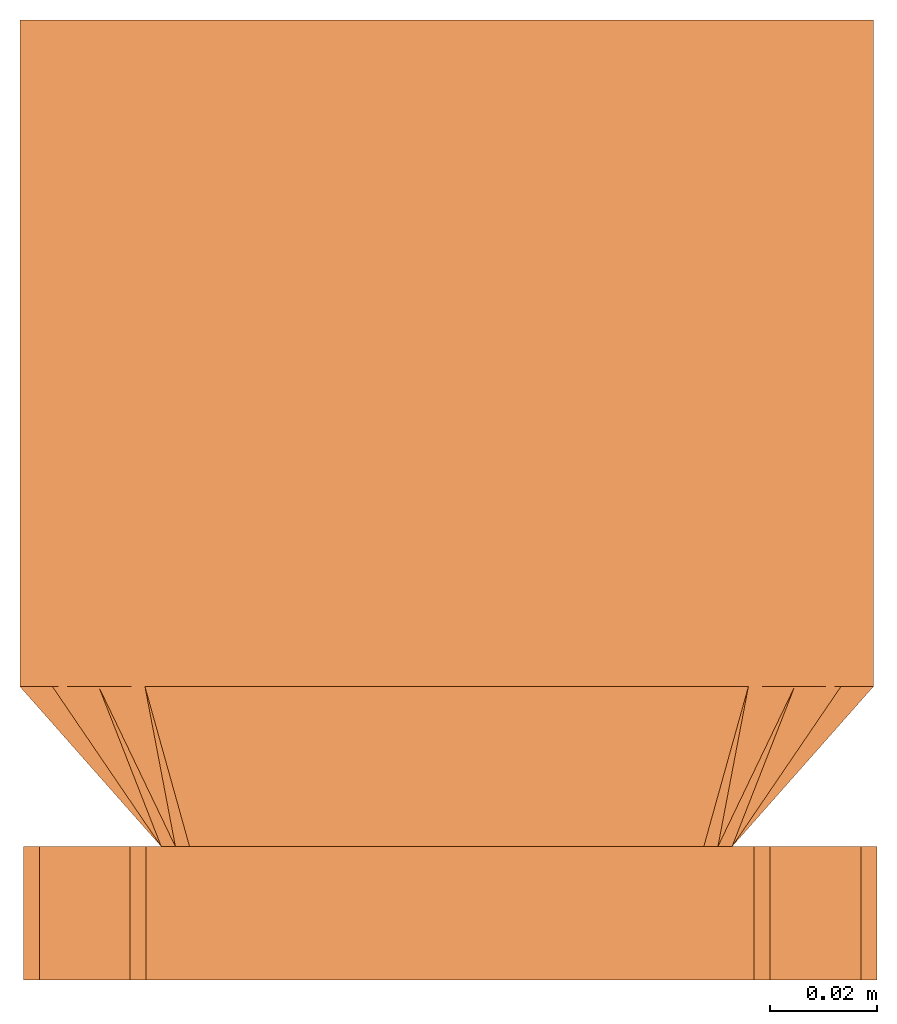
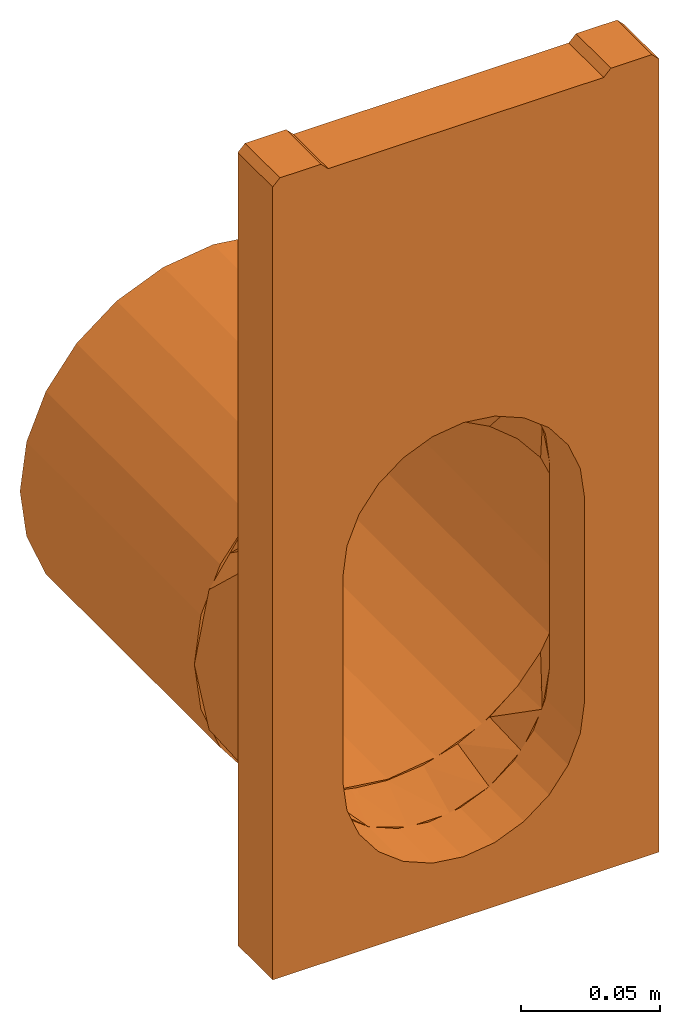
# One storey: 1 proxy.
"""IFC2X3 building model written with IfcOpenShell, lengths in millimetres."""

from ifc_helpers import new_model, entity, si_unit, converted_unit, direction, frame, origin, place, context, subcontext, project, spatial, faceted_brep, source, transform, mapped, material, element, save


model = new_model("IFC2X3")

# Units and contexts
model_context = context("Model", 3, precision=1e-06, world=origin(), true_north=direction((2.0, 6.12303176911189e-17, 1.0)))
context_of_model = context(None, 3, precision=1e-06, world=origin(), true_north=direction((2.0, 6.12303176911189e-17, 1.0)))
body_context = subcontext(model_context, "Body", "Model", "MODEL_VIEW")
ifc_project = project(units=[si_unit("LENGTHUNIT", "METRE", prefix="MILLI"), si_unit("AREAUNIT", "SQUARE_METRE", prefix="MILLI"), si_unit("VOLUMEUNIT", "CUBIC_METRE", prefix="MILLI"), converted_unit("PLANEANGLEUNIT", "DEGREE", entity("IfcRatioMeasure", 0.0174532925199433), si_unit("PLANEANGLEUNIT", "RADIAN"), dimensions=[0, 0, 0, 0, 0, 0, 0]), si_unit("TIMEUNIT", "SECOND")], contexts=[model_context, context_of_model])

# Site, building, storey
site_placement = place(None, origin())
site = spatial("IfcSite", under=ifc_project, at=site_placement, Name="Default", CompositionType="ELEMENT")
building_placement = place(site_placement, origin())
building = spatial("IfcBuilding", under=site, at=building_placement, CompositionType="ELEMENT")
storey_placement = place(building_placement, frame((0.0, 0.0, -4600.0)))
storey = spatial("IfcBuildingStorey", under=building, at=storey_placement, Name="B.O. Footing", CompositionType="ELEMENT", Elevation=-4600.0)

# Proxy
ifc_material = material(Name="Acetal Resin, Black")
shared_shape = source(origin(), body_context, "Body", "Brep", [
    faceted_brep([(38.4565351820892, 55.0, -312.807118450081), (39.3315351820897, 55.0, -314.322662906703), (55.9000776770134, 55.0, -301.609173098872), (54.6626408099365, 55.0, -300.371736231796), (19.5841254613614, 55.0, -320.624326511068), (20.0370587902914, 55.0, -322.314696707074), (-0.668464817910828, 55.0, -323.290630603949), (-0.668464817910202, 55.0, -325.040630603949), (77.5815351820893, 55.0, -245.040630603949), (74.9152310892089, 55.0, -265.293220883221), (76.6056012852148, 55.0, -265.74615421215), (79.3315351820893, 55.0, -245.040630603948), (68.6135674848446, 55.0, -285.040630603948), (67.0980230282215, 55.0, -284.165630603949), (-20.921055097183, 55.0, -320.624326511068), (-21.3739884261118, 55.0, -322.314696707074), (-39.7934648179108, 55.0, -312.807118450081), (-40.6684648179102, 55.0, -314.322662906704), (-55.9995704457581, 55.0, -300.371736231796), (-57.2370073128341, 55.0, -301.609173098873), (-68.434952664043, 55.0, -284.165630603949), (-69.9504971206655, 55.0, -285.040630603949), (-76.2521607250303, 55.0, -265.293220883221), (-77.9425309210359, 55.0, -265.746154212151), (-78.9184648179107, 55.0, -245.040630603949), (-80.6684648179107, 55.0, -245.040630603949), (76.6056012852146, 55.0, -224.335106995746), (74.9152310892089, 55.0, -224.788040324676), (67.0980230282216, 55.0, -205.915630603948), (68.613567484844, 55.0, -205.040630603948), (54.6626408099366, 55.0, -189.709524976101), (55.9000776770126, 55.0, -188.472088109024), (39.3315351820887, 55.0, -175.758598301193), (38.4565351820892, 55.0, -177.274142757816), (19.5841254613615, 55.0, -169.456934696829), (20.0370587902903, 55.0, -167.766564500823), (-0.668464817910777, 55.0, -166.790630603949), (-0.668464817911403, 55.0, -165.040630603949), (-57.237007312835, 55.0, -188.472088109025), (-69.9504971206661, 55.0, -205.040630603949), (-68.434952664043, 55.0, -205.915630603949), (-55.9995704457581, 55.0, -189.709524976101), (-77.9425309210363, 55.0, -224.335106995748), (-76.2521607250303, 55.0, -224.788040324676), (-21.3739884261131, 55.0, -167.766564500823), (-20.921055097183, 55.0, -169.456934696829), (-39.7934648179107, 55.0, -177.274142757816), (-40.6684648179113, 55.0, -175.758598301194), (38.4565351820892, 180.0, -177.274142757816), (39.3315351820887, 180.0, -175.758598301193), (55.9000776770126, 180.0, -188.472088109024), (54.6626408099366, 180.0, -189.709524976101), (19.5841254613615, 180.0, -169.456934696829), (20.0370587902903, 180.0, -167.766564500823), (-0.668464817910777, 180.0, -166.790630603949), (-0.668464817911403, 180.0, -165.040630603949), (77.5815351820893, 180.0, -245.040630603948), (74.9152310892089, 180.0, -224.788040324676), (76.6056012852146, 180.0, -224.335106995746), (79.3315351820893, 180.0, -245.040630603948), (68.613567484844, 180.0, -205.040630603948), (67.0980230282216, 180.0, -205.915630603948), (-20.921055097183, 180.0, -169.456934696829), (-21.3739884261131, 180.0, -167.766564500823), (-39.7934648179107, 180.0, -177.274142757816), (-40.6684648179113, 180.0, -175.758598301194), (-55.9995704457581, 180.0, -189.709524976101), (-57.237007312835, 180.0, -188.472088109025), (-68.434952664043, 180.0, -205.915630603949), (-69.9504971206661, 180.0, -205.040630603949), (-76.2521607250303, 180.0, -224.788040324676), (-77.9425309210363, 180.0, -224.335106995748), (-78.9184648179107, 180.0, -245.040630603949), (-80.6684648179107, 180.0, -245.040630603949), (76.6056012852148, 180.0, -265.74615421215), (74.9152310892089, 180.0, -265.293220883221), (67.0980230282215, 180.0, -284.165630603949), (68.6135674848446, 180.0, -285.040630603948), (54.6626408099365, 180.0, -300.371736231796), (55.9000776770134, 180.0, -301.609173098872), (39.3315351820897, 180.0, -314.322662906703), (38.4565351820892, 180.0, -312.807118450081), (19.5841254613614, 180.0, -320.624326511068), (20.0370587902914, 180.0, -322.314696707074), (-0.668464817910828, 180.0, -323.290630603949), (-0.668464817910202, 180.0, -325.040630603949), (-57.2370073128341, 180.0, -301.609173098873), (-69.9504971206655, 180.0, -285.040630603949), (-68.434952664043, 180.0, -284.165630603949), (-55.9995704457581, 180.0, -300.371736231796), (-77.9425309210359, 180.0, -265.746154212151), (-76.2521607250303, 180.0, -265.293220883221), (-21.3739884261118, 180.0, -322.314696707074), (-20.921055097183, 180.0, -320.624326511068), (-39.7934648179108, 180.0, -312.807118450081), (-40.6684648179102, 180.0, -314.322662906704)], [[[0, 1, 2, 3]], [[1, 0, 4, 5]], [[5, 4, 6, 7]], [[8, 9, 10, 11]], [[12, 10, 9, 13]], [[12, 13, 3, 2]], [[14, 15, 7, 6]], [[15, 14, 16, 17]], [[18, 19, 17, 16]], [[20, 21, 19, 18]], [[21, 20, 22, 23]], [[23, 22, 24, 25]], [[11, 26, 27, 8]], [[28, 27, 26, 29]], [[30, 28, 29, 31]], [[31, 32, 33, 30]], [[34, 33, 32, 35]], [[36, 34, 35, 37]], [[38, 39, 40, 41]], [[40, 39, 42, 43]], [[43, 42, 25, 24]], [[37, 44, 45, 36]], [[46, 45, 44, 47]], [[47, 38, 41, 46]], [[48, 49, 50, 51]], [[49, 48, 52, 53]], [[53, 52, 54, 55]], [[56, 57, 58, 59]], [[60, 58, 57, 61]], [[60, 61, 51, 50]], [[62, 63, 55, 54]], [[63, 62, 64, 65]], [[66, 67, 65, 64]], [[68, 69, 67, 66]], [[69, 68, 70, 71]], [[71, 70, 72, 73]], [[59, 74, 75, 56]], [[76, 75, 74, 77]], [[78, 76, 77, 79]], [[79, 80, 81, 78]], [[82, 81, 80, 83]], [[84, 82, 83, 85]], [[86, 87, 88, 89]], [[88, 87, 90, 91]], [[91, 90, 73, 72]], [[85, 92, 93, 84]], [[94, 93, 92, 95]], [[95, 86, 89, 94]], [[74, 10, 12, 77]], [[77, 12, 2, 79]], [[80, 1, 5, 83]], [[79, 2, 1, 80]], [[83, 5, 7, 85]], [[59, 11, 10, 74]], [[92, 15, 17, 95]], [[95, 17, 19, 86]], [[87, 21, 23, 90]], [[86, 19, 21, 87]], [[90, 23, 25, 73]], [[15, 92, 85, 7]], [[71, 42, 39, 69]], [[69, 39, 38, 67]], [[65, 47, 44, 63]], [[67, 38, 47, 65]], [[63, 44, 37, 55]], [[73, 25, 42, 71]], [[53, 35, 32, 49]], [[49, 32, 31, 50]], [[60, 29, 26, 58]], [[50, 31, 29, 60]], [[58, 26, 11, 59]], [[35, 53, 55, 37]], [[22, 91, 72, 24]], [[20, 88, 91, 22]], [[16, 94, 89, 18]], [[18, 89, 88, 20]], [[14, 93, 94, 16]], [[93, 14, 6, 84]], [[0, 81, 82, 4]], [[3, 78, 81, 0]], [[9, 75, 76, 13]], [[13, 76, 78, 3]], [[8, 56, 75, 9]], [[4, 82, 84, 6]], [[27, 57, 56, 8]], [[28, 61, 57, 27]], [[33, 48, 51, 30]], [[30, 51, 61, 28]], [[34, 52, 48, 33]], [[52, 34, 36, 54]], [[46, 64, 62, 45]], [[41, 66, 64, 46]], [[43, 70, 68, 40]], [[40, 68, 66, 41]], [[24, 72, 70, 43]], [[45, 62, 54, 36]]]),
    faceted_brep([(29.9462097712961, 55.0, -171.130268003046), (42.9231437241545, 55.0, -179.801178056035), (41.5592889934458, 55.0, -183.606358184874), (28.3343628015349, 55.0, -176.535172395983), (55.9000776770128, 55.0, -188.472088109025), (53.1505066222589, 55.0, -193.121668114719), (-0.66846481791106, 55.0, -165.040630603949), (14.6388724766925, 55.0, -168.085449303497), (13.9839116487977, 55.0, -172.179900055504), (-0.94061231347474, 55.0, -170.707980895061), (73.2418977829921, 55.0, -214.425956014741), (77.0732946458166, 55.0, -233.687688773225), (74.0814874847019, 55.0, -232.29328317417), (69.7301354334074, 55.0, -217.942039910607), (62.6626212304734, 55.0, -204.715409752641), (64.5709877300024, 55.0, -201.449022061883), (-15.865672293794, 55.0, -172.176065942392), (-30.2176808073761, 55.0, -176.527833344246), (-31.2831394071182, 55.0, -171.130268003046), (-15.9758021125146, 55.0, -168.085449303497), (-57.2370073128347, 55.0, -188.472088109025), (-44.2600733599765, 55.0, -179.801178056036), (-43.4450376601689, 55.0, -183.596143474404), (-55.0393256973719, 55.0, -193.109451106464), (-64.554850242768, 55.0, -204.702229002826), (-71.6257715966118, 55.0, -217.929003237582), (-74.5788274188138, 55.0, -214.425956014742), (-65.9079173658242, 55.0, -201.449022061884), (-80.6684648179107, 55.0, -245.040630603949), (-78.4102242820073, 55.0, -233.687688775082), (-75.980172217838, 55.0, -232.281461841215), (-76.910293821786, 55.0, -241.723784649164), (-15.8656722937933, 55.0, -322.239894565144), (-17.99574812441, 55.0, -321.594019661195), (-15.9758021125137, 55.0, -321.9958119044), (-13.6560347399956, 55.0, -322.457242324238), (79.3315351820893, 55.0, -245.040630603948), (75.5494822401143, 55.0, -247.207980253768), (75.0096889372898, 55.0, -241.723727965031), (74.081487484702, 55.0, -262.122677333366), (75.0096889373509, 55.0, -252.692232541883), (77.0732946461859, 55.0, -256.393572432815), (73.2418977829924, 55.0, -275.655305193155), (69.7301354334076, 55.0, -276.473920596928), (62.6626212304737, 55.0, -289.700550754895), (64.5709877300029, 55.0, -288.632239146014), (55.9000776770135, 55.0, -301.609173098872), (53.1505066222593, 55.0, -301.294292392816), (42.9231437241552, 55.0, -310.280083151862), (41.5592889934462, 55.0, -310.809602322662), (29.946209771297, 55.0, -318.950993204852), (28.3343628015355, 55.0, -317.880788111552), (15.0354196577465, 55.0, -321.916933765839), (-64.5548502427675, 55.0, -289.713731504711), (-55.0393256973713, 55.0, -301.306509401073), (-57.237007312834, 55.0, -301.609173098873), (-65.9079173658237, 55.0, -288.632239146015), (-74.5788274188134, 55.0, -275.655305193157), (-71.6257715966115, 55.0, -276.486957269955), (-75.9801722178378, 55.0, -262.134498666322), (-78.410224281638, 55.0, -256.393572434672), (-77.4505177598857, 55.0, -247.207980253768), (-76.9102938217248, 55.0, -252.692175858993), (-31.2831394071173, 55.0, -318.950993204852), (-30.2176808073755, 55.0, -317.88812716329), (-43.4450376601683, 55.0, -310.819817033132), (-44.2600733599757, 55.0, -310.280083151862), (13.9839116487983, 55.0, -322.236060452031), (12.8873895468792, 55.0, -322.344203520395), (14.6388724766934, 55.0, -321.9958119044), (-0.668464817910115, 55.0, -325.040630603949), (-0.940612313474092, 55.0, -323.707979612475), (-12.5733347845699, 25.0, -129.381987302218), (-23.2992520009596, 25.0, -134.547316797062), (-25.982616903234, 25.0, -140.428880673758), (-9.64407257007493, 25.0, -134.473181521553), (-39.2714829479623, 25.0, -151.594572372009), (-34.0251692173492, 25.0, -139.712646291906), (-41.4477342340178, 25.0, -149.020248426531), (7.73716484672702, 25.0, -134.472145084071), (-0.668464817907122, 25.0, -129.381987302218), (-54.1684648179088, 25.0, -181.540630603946), (-50.9505177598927, 25.0, -183.711602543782), (-47.9389370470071, 25.0, -166.621007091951), (-51.5193820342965, 25.0, -169.934240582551), (-54.1684648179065, 25.0, -271.540630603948), (-50.9505177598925, 25.0, -273.707980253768), (-48.8702992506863, 25.0, -158.327850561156), (24.0642358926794, 25.0, -140.418853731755), (11.2364051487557, 25.0, -129.381987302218), (37.3739105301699, 25.0, -151.598704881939), (32.6882395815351, 25.0, -139.712646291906), (21.9623223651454, 25.0, -134.547316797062), (46.0402127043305, 25.0, -166.627362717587), (47.5333696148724, 25.0, -158.327850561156), (40.1108045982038, 25.0, -149.020248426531), (52.8315351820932, 25.0, -181.540630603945), (50.1824523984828, 25.0, -169.93424058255), (49.0494822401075, 25.0, -183.711602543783), (52.8315351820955, 25.0, -271.540630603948), (49.0494822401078, 25.0, -273.707980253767), (-47.9339041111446, 25.0, -290.81240678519), (-51.5193820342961, 25.0, -283.147020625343), (-39.2466627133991, 25.0, -305.854601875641), (-48.8702992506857, 25.0, -294.753410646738), (-41.447734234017, 25.0, -304.061012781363), (-34.0251692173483, 25.0, -313.368614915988), (-25.9472982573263, 25.0, -317.011109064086), (-12.5733347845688, 25.0, -323.699273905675), (-9.63017651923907, 25.0, -322.948852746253), (-23.2992520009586, 25.0, -318.533944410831), (7.73927055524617, 25.0, -322.947066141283), (-0.668464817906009, 25.0, -323.699273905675), (46.0369365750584, 25.0, -290.801228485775), (47.5333696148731, 25.0, -294.753410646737), (50.1824523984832, 25.0, -283.147020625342), (37.3586106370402, 25.0, -305.839128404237), (40.1108045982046, 25.0, -304.061012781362), (24.0650499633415, 25.0, -317.000258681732), (11.2364051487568, 25.0, -323.699273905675), (21.9623223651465, 25.0, -318.533944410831), (32.6882395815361, 25.0, -313.368614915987), (-67.7249042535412, 40.346912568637, -214.024928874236), (-74.196684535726, 47.6734562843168, -229.532779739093), (66.3879746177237, 40.346912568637, -257.984191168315), (72.8597548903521, 47.6734562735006, -229.532779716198), (66.387974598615, 40.3469125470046, -214.024928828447), (72.8597548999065, 47.6734562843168, -251.512410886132), (-74.1966845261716, 47.6734562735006, -251.512410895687), (-67.7249042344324, 40.3469125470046, -257.984191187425), (63.1324213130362, 40.9429498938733, -259.625041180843), (56.0909517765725, 32.9714749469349, -266.666510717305), (-74.3462525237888, 51.4857374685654, -250.312245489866), (-71.2419872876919, 47.9714749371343, -253.416510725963), (-65.0334568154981, 40.942949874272, -259.625041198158), (69.3409517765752, 47.9714749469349, -253.416510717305), (-57.9919872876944, 32.9714749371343, -266.666510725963), (72.4452170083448, 51.4857374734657, -250.312245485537), (-65.0334568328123, 40.9429498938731, -217.455588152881), (-57.9919872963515, 32.9714749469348, -200.583595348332), (72.4452170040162, 51.4857374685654, -239.769882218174), (69.3409517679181, 47.9714749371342, -232.33178418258), (63.1324212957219, 40.9429498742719, -217.455588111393), (-71.241987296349, 47.9714749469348, -232.331784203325), (56.0909517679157, 32.9714749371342, -200.583595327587), (-74.3462525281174, 51.4857374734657, -239.769882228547)], [[[0, 1, 2, 3]], [[4, 5, 2, 1]], [[6, 7, 8, 9]], [[0, 3, 8, 7]], [[10, 11, 12, 13]], [[14, 5, 4, 15]], [[10, 13, 14, 15]], [[16, 17, 18, 19]], [[20, 21, 22, 23]], [[18, 17, 22, 21]], [[6, 9, 16, 19]], [[24, 25, 26, 27]], [[28, 29, 30, 31]], [[26, 25, 30, 29]], [[32, 33, 34, 35]], [[20, 23, 24, 27]], [[36, 37, 38, 12]], [[39, 40, 36, 41]], [[42, 43, 39, 41]], [[44, 43, 42, 45]], [[46, 47, 44, 45]], [[46, 48, 49, 47]], [[50, 51, 49, 48]], [[50, 52, 51]], [[53, 54, 55, 56]], [[57, 58, 53, 56]], [[59, 58, 57, 60]], [[28, 61, 62, 59]], [[33, 63, 64]], [[65, 63, 66]], [[55, 54, 65, 66]], [[63, 65, 64]], [[67, 68, 69, 52]], [[70, 35, 71]], [[71, 68, 70]], [[72, 73, 74, 75]], [[76, 74, 77, 78]], [[72, 75, 79, 80]], [[81, 82, 83, 84]], [[82, 81, 85, 86]], [[83, 76, 87, 84]], [[79, 88, 89, 80]], [[88, 90, 91, 92]], [[90, 93, 94, 95]], [[96, 97, 93, 98]], [[99, 96, 98, 100]], [[101, 86, 85, 102]], [[103, 101, 104, 105]], [[106, 107, 103, 105]], [[107, 108, 109]], [[107, 106, 110, 108]], [[111, 109, 108, 112]], [[113, 114, 115, 99]], [[114, 113, 116, 117]], [[99, 100, 113]], [[118, 111, 119, 120]], [[116, 118, 121, 117]], [[85, 81, 122, 123]], [[99, 124, 125, 126]], [[45, 115, 46]], [[106, 66, 63]], [[48, 114, 117, 121]], [[41, 36, 127, 124]], [[50, 121, 120]], [[119, 69, 120]], [[110, 106, 63]], [[124, 99, 42, 41]], [[128, 28, 60, 129]], [[115, 45, 99]], [[115, 114, 46]], [[70, 119, 112, 108]], [[119, 70, 68, 69]], [[66, 104, 55]], [[105, 104, 66, 106]], [[99, 45, 42]], [[85, 56, 102]], [[57, 85, 129, 60]], [[85, 57, 56]], [[104, 102, 55]], [[114, 48, 46]], [[48, 121, 50]], [[120, 69, 52, 50]], [[110, 34, 108]], [[55, 102, 56]], [[110, 63, 33, 34]], [[108, 34, 35, 70]], [[27, 84, 20]], [[91, 1, 0]], [[21, 87, 78, 77]], [[29, 28, 123, 122]], [[18, 77, 73]], [[72, 19, 73]], [[92, 91, 0]], [[122, 81, 26, 29]], [[125, 36, 11, 126]], [[84, 27, 81]], [[84, 87, 20]], [[6, 72, 80, 89]], [[72, 6, 19]], [[1, 94, 4]], [[95, 94, 1, 91]], [[81, 27, 26]], [[96, 15, 97]], [[10, 96, 126, 11]], [[96, 10, 15]], [[94, 97, 4]], [[87, 21, 20]], [[21, 77, 18]], [[18, 73, 19]], [[92, 7, 89]], [[4, 97, 15]], [[7, 92, 0]], [[7, 6, 89]], [[100, 44, 113]], [[113, 49, 116]], [[67, 111, 118]], [[71, 111, 67]], [[51, 118, 116]], [[51, 67, 118]], [[130, 39, 43]], [[100, 131, 44]], [[62, 61, 132, 133]], [[113, 47, 49]], [[47, 113, 44]], [[43, 44, 131]], [[116, 49, 51]], [[133, 134, 59, 62]], [[32, 109, 71]], [[111, 71, 109]], [[107, 109, 32]], [[39, 130, 135, 40]], [[65, 101, 103]], [[103, 107, 64]], [[58, 134, 136]], [[64, 107, 32]], [[131, 130, 43]], [[86, 101, 53]], [[64, 65, 103]], [[65, 54, 101]], [[40, 135, 137, 37]], [[86, 53, 136]], [[54, 53, 101]], [[58, 136, 53]], [[59, 134, 58]], [[82, 24, 83]], [[83, 22, 76]], [[16, 75, 74]], [[9, 75, 16]], [[17, 74, 76]], [[17, 16, 74]], [[138, 30, 25]], [[82, 139, 24]], [[38, 37, 140, 141]], [[83, 23, 22]], [[23, 83, 24]], [[25, 24, 139]], [[76, 22, 17]], [[141, 142, 12, 38]], [[8, 79, 9]], [[75, 9, 79]], [[88, 79, 8]], [[30, 138, 143, 31]], [[2, 93, 90]], [[90, 88, 3]], [[3, 88, 8]], [[98, 14, 144]], [[98, 93, 14]], [[3, 2, 90]], [[2, 5, 93]], [[31, 143, 145, 61]], [[13, 142, 144]], [[5, 14, 93]], [[139, 138, 25]], [[13, 144, 14]], [[12, 142, 13]], [[100, 98, 144, 142]], [[86, 136, 145, 143]], [[12, 11, 36]], [[28, 31, 61]], [[36, 40, 37]], [[59, 60, 28]], [[74, 73, 77]], [[76, 78, 87]], [[88, 92, 89]], [[93, 97, 94]], [[90, 95, 91]], [[101, 102, 104]], [[111, 112, 119]], [[118, 120, 121]], [[123, 28, 128, 129]], [[123, 129, 85]], [[99, 126, 96]], [[125, 124, 127, 36]], [[100, 142, 141, 140]], [[140, 37, 137, 135]], [[140, 135, 130, 131]], [[140, 131, 100]], [[86, 143, 138, 139]], [[86, 139, 82]], [[145, 136, 134, 133]], [[145, 133, 132, 61]]]),
    faceted_brep([(60.0, 25.0, 0.0), (77.0, 25.0, 0.0), (80.0, 25.0, -3.0), (57.0, 25.0, -3.0), (24.0494206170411, 25.0, -140.414360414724), (11.9903728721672, 25.0, -135.419339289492), (42.3506908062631, 25.0, -158.715630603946), (34.4047596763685, 25.0, -148.360291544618), (-0.950579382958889, 25.0, -133.715630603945), (-57.0, 25.0, -3.0), (47.3457119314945, 25.0, -170.77467834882), (-60.0, 25.0, 0.0), (-80.0, 25.0, -3.0), (-77.0, 25.0, 0.0), (-25.9505793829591, 25.0, -140.414360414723), (-13.891531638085, 25.0, -135.419339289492), (-44.2518495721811, 25.0, -158.715630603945), (-49.2468706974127, 25.0, -170.774678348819), (-36.3059184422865, 25.0, -148.360291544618), (-50.9505793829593, 25.0, -183.715630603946), (49.0494206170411, 25.0, -273.715630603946), (49.0494206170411, 25.0, -183.715630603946), (80.0, 25.0, -349.999933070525), (47.3457119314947, 25.0, -286.656582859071), (42.3506908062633, 25.0, -298.715630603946), (34.4047596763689, 25.0, -309.070969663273), (24.0494206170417, 25.0, -317.016900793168), (11.9903728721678, 25.0, -322.011921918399), (-0.950579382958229, 25.0, -323.715630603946), (-80.0, 25.0, -349.999933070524), (-49.2468706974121, 25.0, -286.656582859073), (-44.2518495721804, 25.0, -298.715630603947), (-50.9505793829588, 25.0, -273.715630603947), (-13.8915316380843, 25.0, -322.0119219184), (-36.3059184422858, 25.0, -309.070969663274), (-25.9505793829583, 25.0, -317.016900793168), (80.0, 0.0, -349.999933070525), (34.4047596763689, 0.0, -309.070969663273), (24.0494206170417, 0.0, -317.016900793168), (42.3506908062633, 0.0, -298.715630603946), (11.9903728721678, 0.0, -322.011921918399), (-0.950579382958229, 0.0, -323.715630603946), (49.0494206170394, 0.0, -183.715630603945), (49.0494206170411, 0.0, -273.715630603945), (80.0, 0.0, -3.0), (47.3457119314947, 0.0, -286.656582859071), (47.3457119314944, 0.0, -170.774678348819), (-13.8915316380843, 0.0, -322.0119219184), (-80.0, 0.0, -349.999933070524), (-25.9505793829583, 0.0, -317.016900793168), (-36.3059184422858, 0.0, -309.070969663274), (-44.2518495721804, 0.0, -298.715630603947), (-50.9505793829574, 0.0, -273.715630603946), (-50.9505793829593, 0.0, -183.715630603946), (-80.0, 0.0, -3.0), (-49.2468706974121, 0.0, -286.656582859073), (34.4047596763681, 0.0, -148.360291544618), (42.3506908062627, 0.0, -158.715630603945), (57.0, 0.0, -3.0), (11.9903728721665, 0.0, -135.419339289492), (24.0494206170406, 0.0, -140.414360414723), (77.0, 0.0, 0.0), (60.0, 0.0, 0.0), (-0.950579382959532, 0.0, -133.715630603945), (-57.0, 0.0, -3.0), (-36.305918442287, 0.0, -148.360291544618), (-25.9505793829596, 0.0, -140.414360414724), (-49.2468706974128, 0.0, -170.77467834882), (-44.2518495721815, 0.0, -158.715630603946), (-13.8915316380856, 0.0, -135.419339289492), (-60.0, 0.0, 0.0), (-77.0, 0.0, 0.0)], [[[0, 1, 2, 3]], [[3, 2, 4, 5]], [[6, 7, 2]], [[3, 5, 8, 9]], [[7, 4, 2]], [[2, 10, 6]], [[11, 9, 12, 13]], [[14, 12, 9, 15]], [[16, 17, 12]], [[18, 16, 12]], [[14, 18, 12]], [[9, 8, 15]], [[12, 17, 19]], [[20, 21, 22]], [[20, 22, 23]], [[21, 10, 2, 22]], [[24, 22, 25]], [[22, 24, 23]], [[26, 25, 22]], [[27, 26, 22]], [[28, 27, 22, 29]], [[30, 31, 29]], [[19, 32, 29, 12]], [[30, 29, 32]], [[33, 28, 29]], [[34, 35, 29]], [[29, 35, 33]], [[34, 29, 31]], [[36, 37, 38]], [[37, 36, 39]], [[38, 40, 36]], [[36, 40, 41]], [[42, 43, 36, 44]], [[45, 39, 36]], [[46, 42, 44]], [[43, 45, 36]], [[41, 47, 48, 36]], [[48, 49, 50]], [[49, 48, 47]], [[50, 51, 48]], [[48, 52, 53, 54]], [[55, 52, 48]], [[51, 55, 48]], [[56, 57, 44]], [[58, 59, 60, 44]], [[56, 44, 60]], [[44, 61, 62, 58]], [[63, 59, 58, 64]], [[57, 46, 44]], [[54, 65, 66, 64]], [[67, 68, 54]], [[65, 54, 68]], [[64, 69, 63]], [[70, 71, 54, 64]], [[64, 66, 69]], [[67, 54, 53]], [[44, 36, 22, 2]], [[48, 54, 12, 29]], [[22, 36, 48, 29]], [[71, 70, 11, 13]], [[61, 44, 2, 1]], [[0, 62, 61, 1]], [[3, 58, 62, 0]], [[64, 58, 3, 9]], [[70, 64, 9, 11]], [[54, 71, 13, 12]], [[42, 21, 20, 43]], [[17, 67, 53, 19]], [[16, 68, 67, 17]], [[14, 66, 65, 18]], [[18, 65, 68, 16]], [[15, 69, 66, 14]], [[69, 15, 8, 63]], [[5, 59, 63, 8]], [[4, 60, 59, 5]], [[6, 57, 56, 7]], [[7, 56, 60, 4]], [[10, 46, 57, 6]], [[46, 10, 21, 42]], [[32, 19, 53, 52]], [[23, 45, 43, 20]], [[24, 39, 45, 23]], [[26, 38, 37, 25]], [[25, 37, 39, 24]], [[27, 40, 38, 26]], [[40, 27, 28, 41]], [[33, 47, 41, 28]], [[35, 49, 47, 33]], [[31, 51, 50, 34]], [[34, 50, 49, 35]], [[30, 55, 51, 31]], [[55, 30, 32, 52]]]),
])
proxy_placement = place(storey_placement, frame((-63315.5678793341, 29124.476162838, 300.0)))
element("IfcBuildingElementProxy", 1, at=proxy_placement, inside=storey, material=ifc_material, Name="Civil-Drainage-Channel-ACO-RoadDrain 100:32308 - PD100 F 308 Inlet/outlet endcap:32308 - PD100 F 308 Inlet/outlet endcap", ObjectType="32308 - PD100 F 308 Inlet/outlet endcap", CompositionType="ELEMENT", context=body_context, shape_type="MappedRepresentation", body=[
    mapped(shared_shape, transform((0.0, 0.0, 0.0), scale=1.0)),
])

save(model, "model.ifc")
